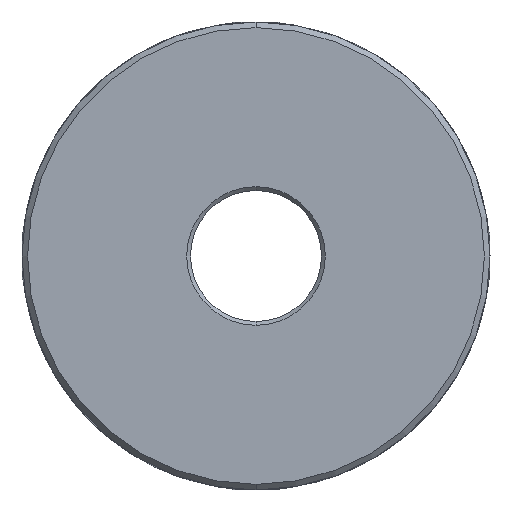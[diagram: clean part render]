
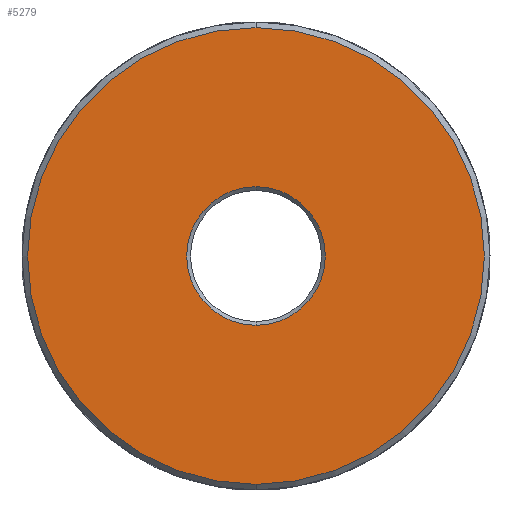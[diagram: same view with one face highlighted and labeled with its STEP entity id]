
A CAD part, front view. The second image highlights one B-rep face of the part: STEP entity #5279.
In plain terms, the highlighted planar face has unit normal (0, -1, 0).
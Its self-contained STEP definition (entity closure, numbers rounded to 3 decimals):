
#202 = CARTESIAN_POINT ( 'NONE',  ( 0., 0., -7.4 ) ) ;
#345 = AXIS2_PLACEMENT_3D ( 'NONE', #5014, #6792, #7537 ) ;
#631 = AXIS2_PLACEMENT_3D ( 'NONE', #4503, #2156, #5649 ) ;
#720 = DIRECTION ( 'NONE',  ( 0., 0., 1. ) ) ;
#1626 = VERTEX_POINT ( 'NONE', #6576 ) ;
#1782 = CARTESIAN_POINT ( 'NONE',  ( -50., 0., 32.858 ) ) ;
#1840 = DIRECTION ( 'NONE',  ( 0., 1., 0. ) ) ;
#2156 = DIRECTION ( 'NONE',  ( 0., 1., 0. ) ) ;
#2294 = EDGE_CURVE ( 'NONE', #6423, #6265, #4253, .T. ) ;
#2422 = EDGE_CURVE ( 'NONE', #1626, #3808, #4072, .T. ) ;
#2432 = ORIENTED_EDGE ( 'NONE', *, *, #2294, .T. ) ;
#2742 = ORIENTED_EDGE ( 'NONE', *, *, #2422, .T. ) ;
#3538 = PLANE ( 'NONE',  #3605 ) ;
#3605 = AXIS2_PLACEMENT_3D ( 'NONE', #1782, #6530, #5310 ) ;
#3608 = CARTESIAN_POINT ( 'NONE',  ( 0., 0., 0. ) ) ;
#3808 = VERTEX_POINT ( 'NONE', #5482 ) ;
#4072 = CIRCLE ( 'NONE', #6715, 24.4 ) ;
#4132 = FACE_BOUND ( 'NONE', #7035, .T. ) ;
#4253 = CIRCLE ( 'NONE', #631, 7.4 ) ;
#4503 = CARTESIAN_POINT ( 'NONE',  ( 0., 0., 0. ) ) ;
#4687 = ORIENTED_EDGE ( 'NONE', *, *, #7444, .T. ) ;
#4985 = CARTESIAN_POINT ( 'NONE',  ( 0., 0., 7.4 ) ) ;
#5014 = CARTESIAN_POINT ( 'NONE',  ( 0., 0., 0. ) ) ;
#5147 = AXIS2_PLACEMENT_3D ( 'NONE', #3608, #1840, #5840 ) ;
#5279 = ADVANCED_FACE ( 'NONE', ( #4132, #6293 ), #3538, .F. ) ;
#5310 = DIRECTION ( 'NONE',  ( 0., 0., 1. ) ) ;
#5482 = CARTESIAN_POINT ( 'NONE',  ( 0., 0., 24.4 ) ) ;
#5649 = DIRECTION ( 'NONE',  ( 0., 0., 1. ) ) ;
#5739 = EDGE_LOOP ( 'NONE', ( #4687, #2742 ) ) ;
#5788 = CARTESIAN_POINT ( 'NONE',  ( 0., 0., 0. ) ) ;
#5821 = CIRCLE ( 'NONE', #345, 24.4 ) ;
#5840 = DIRECTION ( 'NONE',  ( 0., 0., 1. ) ) ;
#6203 = EDGE_CURVE ( 'NONE', #6265, #6423, #7039, .T. ) ;
#6265 = VERTEX_POINT ( 'NONE', #202 ) ;
#6293 = FACE_OUTER_BOUND ( 'NONE', #5739, .T. ) ;
#6423 = VERTEX_POINT ( 'NONE', #4985 ) ;
#6486 = DIRECTION ( 'NONE',  ( 0., -1., 0. ) ) ;
#6530 = DIRECTION ( 'NONE',  ( 0., 1., 0. ) ) ;
#6576 = CARTESIAN_POINT ( 'NONE',  ( 0., 0., -24.4 ) ) ;
#6715 = AXIS2_PLACEMENT_3D ( 'NONE', #5788, #6486, #720 ) ;
#6792 = DIRECTION ( 'NONE',  ( 0., -1., 0. ) ) ;
#7035 = EDGE_LOOP ( 'NONE', ( #7518, #2432 ) ) ;
#7039 = CIRCLE ( 'NONE', #5147, 7.4 ) ;
#7444 = EDGE_CURVE ( 'NONE', #3808, #1626, #5821, .T. ) ;
#7518 = ORIENTED_EDGE ( 'NONE', *, *, #6203, .T. ) ;
#7537 = DIRECTION ( 'NONE',  ( 0., 0., 1. ) ) ;
